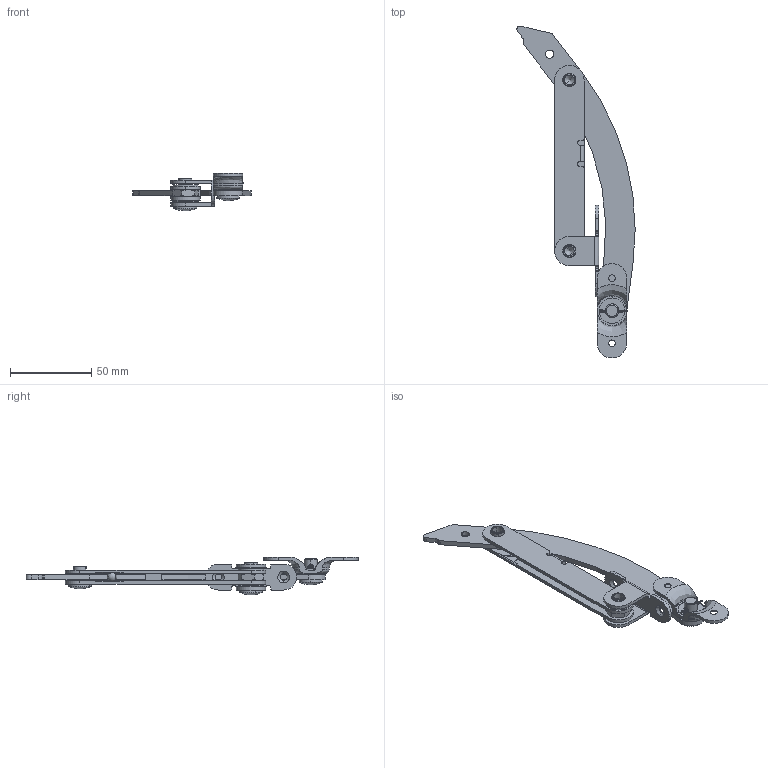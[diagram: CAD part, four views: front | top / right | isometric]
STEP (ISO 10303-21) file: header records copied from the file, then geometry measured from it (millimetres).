
FILE_DESCRIPTION (( 'STEP AP203' ), '1' );
FILE_NAME ('TX080F3A001+TX80-1-Z敕磁.STEP', '2022-11-23T07:55:54', ( 'SJ' ), ( '' ), 'SwSTEP 2.0', 'SolidWorks 2020', '' );
FILE_SCHEMA (( 'CONFIG_CONTROL_DESIGN' ));
Length unit declared in the file: millimetre
Products named in the file (13): 8SJ.TX80-1.0500; 8SJ.TX80-1.0620; 8SJ.TX80-1.0581; 8SJ.TX80-1.0350; 8SJ.TX80-1.0621; 8SJ.TX80-1.0351; TX080F3A001+TX80-1-Z敕磁; 8SJ.TX80-1.0370; 8SJ.TX80-1.0580; D1.5℅16決GB決T91; 8SJ.TX80-1.0760; 8SJ.TX80-1.0582; ⊿6決GB決T 308
Assembly tree (17 placements, depth 2):
  TX080F3A001+TX80-1-Z敕磁
    8SJ.TX80-1.0370
    ⊿6決GB決T 308
    8SJ.TX80-1.0350
    8SJ.TX80-1.0351
    8SJ.TX80-1.0500  x6
    8SJ.TX80-1.0580
    8SJ.TX80-1.0581
    8SJ.TX80-1.0582
    8SJ.TX80-1.0620
    8SJ.TX80-1.0621
    8SJ.TX80-1.0760
    D1.5℅16決GB決T91
Bounding box: 72.6 x 203.78 x 23.3 mm (x, y, z)
Volume: 27412 mm3; surface area: 29019.8 mm2
Topology: 17 solids, 17 shells, 357 faces, 892 edges, 564 vertices
Faces by surface type: cylinder 152, plane 94, bspline 84, cone 22, sphere 5
Entity records: 14615 total; most frequent: CARTESIAN_POINT 5608, ORIENTED_EDGE 1642, DIRECTION 1492, EDGE_CURVE 821, AXIS2_PLACEMENT_3D 581, VERTEX_POINT 521, EDGE_LOOP 364, VECTOR 330
